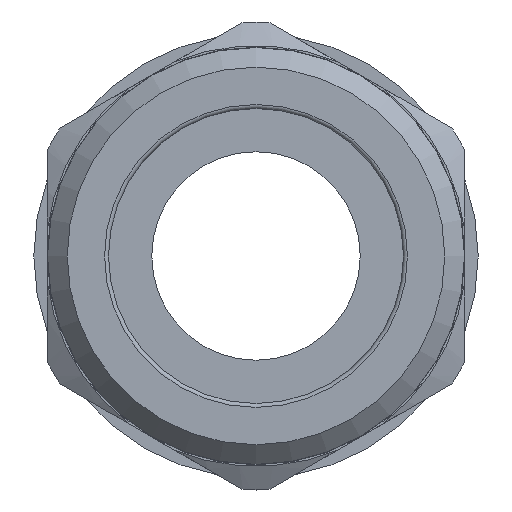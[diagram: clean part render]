
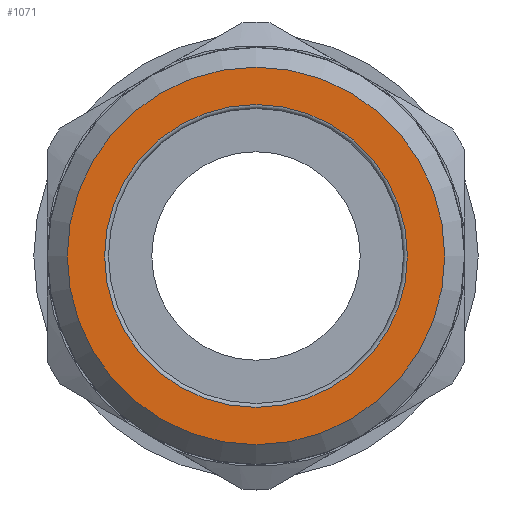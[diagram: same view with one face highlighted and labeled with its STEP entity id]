
A CAD part, front view. The second image highlights one B-rep face of the part: STEP entity #1071.
In plain terms, the highlighted planar face has unit normal (0, -1, 0).
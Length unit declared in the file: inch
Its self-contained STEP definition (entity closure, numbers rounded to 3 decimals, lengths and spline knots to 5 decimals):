
#59=FACE_BOUND('',#208,.T.);
#72=PLANE('',#1217);
#137=FACE_OUTER_BOUND('',#207,.T.);
#207=EDGE_LOOP('',(#851));
#208=EDGE_LOOP('',(#852,#853));
#392=CIRCLE('',#1214,0.385);
#393=CIRCLE('',#1215,0.385);
#395=CIRCLE('',#1218,0.48);
#488=VERTEX_POINT('',#1816);
#489=VERTEX_POINT('',#1818);
#490=VERTEX_POINT('',#1823);
#618=EDGE_CURVE('',#488,#489,#392,.T.);
#619=EDGE_CURVE('',#489,#488,#393,.T.);
#621=EDGE_CURVE('',#490,#490,#395,.T.);
#851=ORIENTED_EDGE('',*,*,#621,.F.);
#852=ORIENTED_EDGE('',*,*,#619,.F.);
#853=ORIENTED_EDGE('',*,*,#618,.F.);
#1071=ADVANCED_FACE('',(#137,#59),#72,.T.);
#1214=AXIS2_PLACEMENT_3D('',#1819,#1476,#1477);
#1215=AXIS2_PLACEMENT_3D('',#1820,#1478,#1479);
#1217=AXIS2_PLACEMENT_3D('',#1822,#1482,#1483);
#1218=AXIS2_PLACEMENT_3D('',#1824,#1484,#1485);
#1476=DIRECTION('center_axis',(0.,-1.,0.));
#1477=DIRECTION('ref_axis',(0.,0.,1.));
#1478=DIRECTION('center_axis',(0.,-1.,0.));
#1479=DIRECTION('ref_axis',(0.,0.,1.));
#1482=DIRECTION('center_axis',(0.,-1.,0.));
#1483=DIRECTION('ref_axis',(0.,0.,-1.));
#1484=DIRECTION('center_axis',(0.,1.,0.));
#1485=DIRECTION('ref_axis',(0.,0.,1.));
#1816=CARTESIAN_POINT('',(0.,-1.,0.385));
#1818=CARTESIAN_POINT('',(0.,-1.,-0.385));
#1819=CARTESIAN_POINT('Origin',(0.,-1.,0.));
#1820=CARTESIAN_POINT('Origin',(0.,-1.,0.));
#1822=CARTESIAN_POINT('Origin',(0.,-1.,-0.375));
#1823=CARTESIAN_POINT('',(0.,-1.,-0.48));
#1824=CARTESIAN_POINT('Origin',(0.,-1.,0.));
